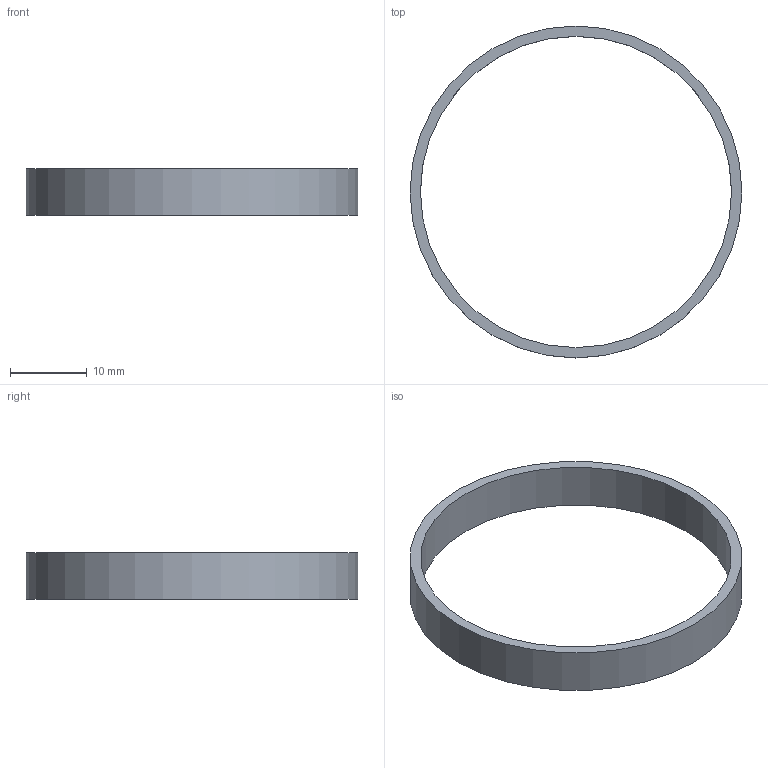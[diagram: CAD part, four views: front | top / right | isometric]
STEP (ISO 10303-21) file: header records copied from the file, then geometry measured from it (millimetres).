
FILE_DESCRIPTION(('Open CASCADE Model'),'2;1');
FILE_NAME('Open CASCADE Shape Model','2026-09-08T11:26:29',('Author'),( 'Open CASCADE'),'Open CASCADE STEP processor 7.8','build123d', 'Unknown');
FILE_SCHEMA(('AUTOMOTIVE_DESIGN { 1 0 10303 214 1 1 1 1 }'));
Length unit declared in the file: millimetre
Products named in the file (1): SOLID
Bounding box: 43.2 x 43.2 x 6 mm (x, y, z)
Volume: 1065 mm3; surface area: 1932.7 mm2
Topology: 1 solids, 1 shells, 4 faces, 6 edges, 4 vertices
Faces by surface type: cylinder 2, plane 2
Full cylindrical faces by diameter (mm): 40.5 x1, 43.2 x1
Entity records: 192 total; most frequent: CARTESIAN_POINT 39, DIRECTION 30, ORIENTED_EDGE 12, PCURVE 12, DEFINITIONAL_REPRESENTATION 12, LINE 10, VECTOR 10, AXIS2_PLACEMENT_3D 9
